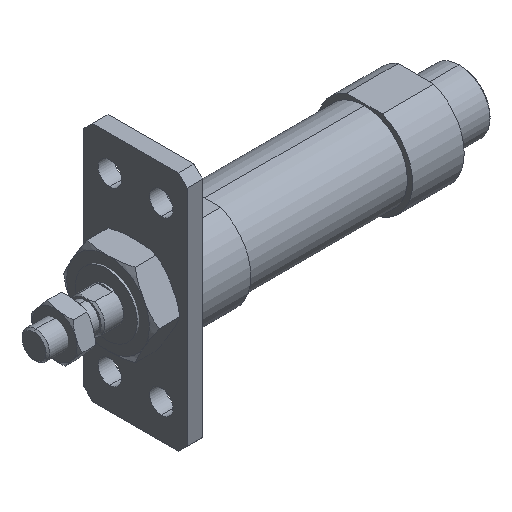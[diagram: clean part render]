
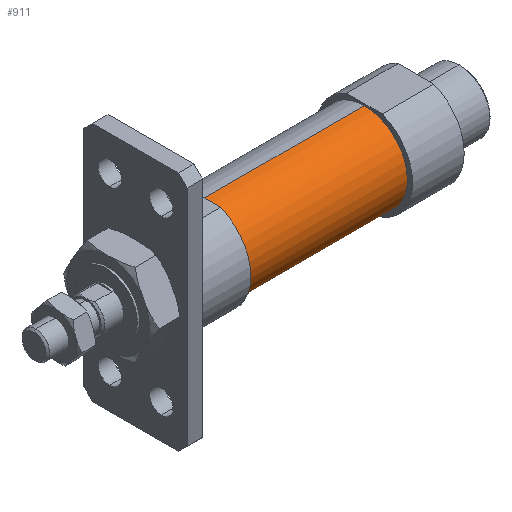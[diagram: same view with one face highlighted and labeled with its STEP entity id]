
A CAD part, isometric view. The second image highlights one B-rep face of the part: STEP entity #911.
In plain terms, the highlighted cylindrical face has radius 12.5 mm (diameter 25 mm), a partial arc.
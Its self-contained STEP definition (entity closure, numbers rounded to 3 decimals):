
#410 = CIRCLE ( 'NONE', #1806, 12.5 ) ;
#426 = FACE_OUTER_BOUND ( 'NONE', #2970, .T. ) ;
#440 = EDGE_CURVE ( 'NONE', #3968, #3015, #2961, .T. ) ;
#782 = CARTESIAN_POINT ( 'NONE',  ( 49., 0., -12.5 ) ) ;
#911 = ADVANCED_FACE ( 'NONE', ( #426 ), #3458, .T. ) ;
#1061 = VECTOR ( 'NONE', #1092, 1000. ) ;
#1092 = DIRECTION ( 'NONE',  ( -1., 0., 0. ) ) ;
#1182 = CARTESIAN_POINT ( 'NONE',  ( -6.469, 0., 12.5 ) ) ;
#1205 = ORIENTED_EDGE ( 'NONE', *, *, #440, .T. ) ;
#1239 = EDGE_CURVE ( 'NONE', #2461, #3968, #2284, .T. ) ;
#1333 = ORIENTED_EDGE ( 'NONE', *, *, #2909, .F. ) ;
#1363 = DIRECTION ( 'NONE',  ( -1., 0., 0. ) ) ;
#1488 = CARTESIAN_POINT ( 'NONE',  ( 96., 0., -12.5 ) ) ;
#1551 = CARTESIAN_POINT ( 'NONE',  ( -6.469, 0., 0. ) ) ;
#1764 = DIRECTION ( 'NONE',  ( -1., 0., 0. ) ) ;
#1799 = DIRECTION ( 'NONE',  ( 0., 0., 1. ) ) ;
#1806 = AXIS2_PLACEMENT_3D ( 'NONE', #1883, #3193, #1799 ) ;
#1874 = CARTESIAN_POINT ( 'NONE',  ( -6.469, 0., -12.5 ) ) ;
#1883 = CARTESIAN_POINT ( 'NONE',  ( 49., 0., 0. ) ) ;
#2110 = CARTESIAN_POINT ( 'NONE',  ( 96., 0., 12.5 ) ) ;
#2284 = CIRCLE ( 'NONE', #2535, 12.5 ) ;
#2461 = VERTEX_POINT ( 'NONE', #1488 ) ;
#2535 = AXIS2_PLACEMENT_3D ( 'NONE', #3134, #1363, #3065 ) ;
#2619 = VERTEX_POINT ( 'NONE', #782 ) ;
#2671 = DIRECTION ( 'NONE',  ( -1., 0., 0. ) ) ;
#2909 = EDGE_CURVE ( 'NONE', #2619, #3015, #410, .T. ) ;
#2927 = ORIENTED_EDGE ( 'NONE', *, *, #3360, .F. ) ;
#2961 = LINE ( 'NONE', #1182, #3432 ) ;
#2970 = EDGE_LOOP ( 'NONE', ( #2927, #3633, #1205, #1333 ) ) ;
#3015 = VERTEX_POINT ( 'NONE', #3068 ) ;
#3065 = DIRECTION ( 'NONE',  ( 0., 0., 1. ) ) ;
#3068 = CARTESIAN_POINT ( 'NONE',  ( 49., 0., 12.5 ) ) ;
#3134 = CARTESIAN_POINT ( 'NONE',  ( 96., 0., 0. ) ) ;
#3193 = DIRECTION ( 'NONE',  ( -1., 0., 0. ) ) ;
#3209 = DIRECTION ( 'NONE',  ( 0., 0., 1. ) ) ;
#3360 = EDGE_CURVE ( 'NONE', #2461, #2619, #3652, .T. ) ;
#3432 = VECTOR ( 'NONE', #1764, 1000. ) ;
#3458 = CYLINDRICAL_SURFACE ( 'NONE', #3677, 12.5 ) ;
#3633 = ORIENTED_EDGE ( 'NONE', *, *, #1239, .T. ) ;
#3652 = LINE ( 'NONE', #1874, #1061 ) ;
#3677 = AXIS2_PLACEMENT_3D ( 'NONE', #1551, #2671, #3209 ) ;
#3968 = VERTEX_POINT ( 'NONE', #2110 ) ;
